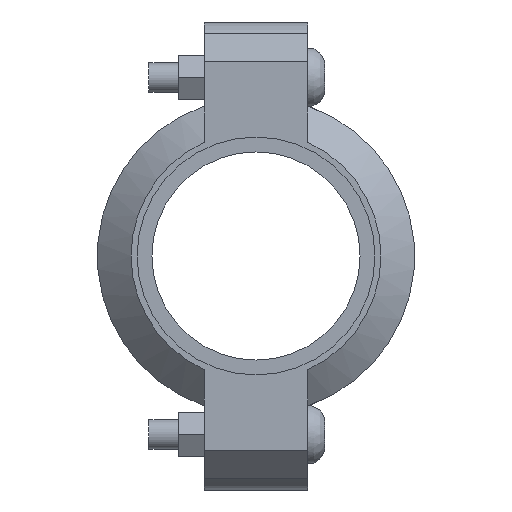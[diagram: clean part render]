
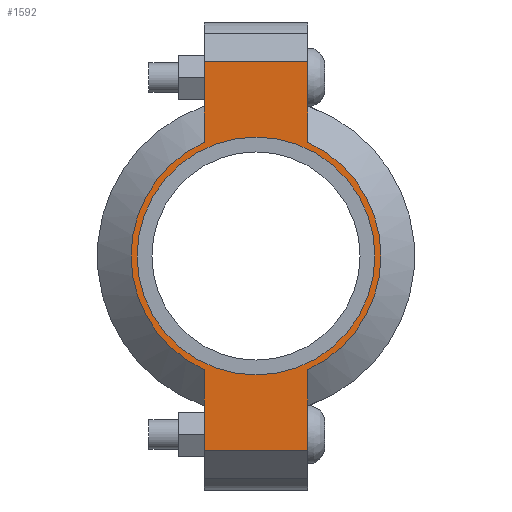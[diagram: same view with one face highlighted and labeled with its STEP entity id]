
A CAD part, left-side view. The second image highlights one B-rep face of the part: STEP entity #1592.
In plain terms, the highlighted planar face has unit normal (-1, 0, 0) as drawn and (0, 0, 1) by its records, which use the part's own axes.
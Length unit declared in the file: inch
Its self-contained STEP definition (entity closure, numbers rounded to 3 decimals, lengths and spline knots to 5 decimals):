
#198=LINE('',#2793,#293);
#211=LINE('',#2837,#306);
#216=LINE('',#2861,#311);
#223=LINE('',#2879,#318);
#230=LINE('',#2904,#325);
#231=LINE('',#2907,#326);
#293=VECTOR('',#2247,0.3937);
#306=VECTOR('',#2276,0.3937);
#311=VECTOR('',#2287,0.3937);
#318=VECTOR('',#2304,0.3937);
#325=VECTOR('',#2325,0.3937);
#326=VECTOR('',#2330,0.3937);
#378=FACE_BOUND('',#556,.T.);
#451=FACE_OUTER_BOUND('',#555,.T.);
#555=EDGE_LOOP('',(#1347,#1348,#1349,#1350,#1351,#1352,#1353,#1354));
#556=EDGE_LOOP('',(#1355));
#625=CIRCLE('',#1809,1.5);
#653=CIRCLE('',#1872,1.575);
#654=CIRCLE('',#1873,1.575);
#717=VERTEX_POINT('',#2581);
#760=VERTEX_POINT('',#2788);
#761=VERTEX_POINT('',#2792);
#777=VERTEX_POINT('',#2834);
#778=VERTEX_POINT('',#2836);
#784=VERTEX_POINT('',#2856);
#785=VERTEX_POINT('',#2860);
#790=VERTEX_POINT('',#2876);
#791=VERTEX_POINT('',#2878);
#875=EDGE_CURVE('',#717,#717,#625,.T.);
#937=EDGE_CURVE('',#761,#760,#198,.T.);
#957=EDGE_CURVE('',#778,#777,#211,.T.);
#966=EDGE_CURVE('',#785,#784,#216,.T.);
#975=EDGE_CURVE('',#791,#790,#223,.T.);
#987=EDGE_CURVE('',#785,#777,#230,.T.);
#988=EDGE_CURVE('',#784,#791,#653,.T.);
#989=EDGE_CURVE('',#761,#790,#231,.T.);
#990=EDGE_CURVE('',#760,#778,#654,.T.);
#1347=ORIENTED_EDGE('',*,*,#987,.F.);
#1348=ORIENTED_EDGE('',*,*,#966,.T.);
#1349=ORIENTED_EDGE('',*,*,#988,.T.);
#1350=ORIENTED_EDGE('',*,*,#975,.T.);
#1351=ORIENTED_EDGE('',*,*,#989,.F.);
#1352=ORIENTED_EDGE('',*,*,#937,.T.);
#1353=ORIENTED_EDGE('',*,*,#990,.T.);
#1354=ORIENTED_EDGE('',*,*,#957,.T.);
#1355=ORIENTED_EDGE('',*,*,#875,.T.);
#1433=PLANE('',#1871);
#1592=ADVANCED_FACE('',(#451,#378),#1433,.T.);
#1809=AXIS2_PLACEMENT_3D('',#2583,#2127,#2128);
#1871=AXIS2_PLACEMENT_3D('',#2905,#2326,#2327);
#1872=AXIS2_PLACEMENT_3D('',#2906,#2328,#2329);
#1873=AXIS2_PLACEMENT_3D('',#2908,#2331,#2332);
#2127=DIRECTION('center_axis',(0.,0.,-1.));
#2128=DIRECTION('ref_axis',(-1.,0.,0.));
#2247=DIRECTION('',(-1.,0.,0.));
#2276=DIRECTION('',(-1.,0.,0.));
#2287=DIRECTION('',(1.,0.,0.));
#2304=DIRECTION('',(1.,0.,0.));
#2325=DIRECTION('',(0.,1.,0.));
#2326=DIRECTION('center_axis',(0.,0.,1.));
#2327=DIRECTION('ref_axis',(1.,0.,0.));
#2328=DIRECTION('center_axis',(0.,0.,1.));
#2329=DIRECTION('ref_axis',(-1.,0.,0.));
#2330=DIRECTION('',(0.,-1.,0.));
#2331=DIRECTION('center_axis',(0.,0.,1.));
#2332=DIRECTION('ref_axis',(-1.,0.,0.));
#2581=CARTESIAN_POINT('',(1.5,0.,0.94));
#2583=CARTESIAN_POINT('Origin',(0.,0.,0.94));
#2788=CARTESIAN_POINT('',(1.43462,0.65,0.94));
#2792=CARTESIAN_POINT('',(2.45,0.65,0.94));
#2793=CARTESIAN_POINT('',(-2.95,0.65,0.94));
#2834=CARTESIAN_POINT('',(-2.45,0.65,0.94));
#2836=CARTESIAN_POINT('',(-1.43462,0.65,0.94));
#2837=CARTESIAN_POINT('',(-2.95,0.65,0.94));
#2856=CARTESIAN_POINT('',(-1.43462,-0.65,0.94));
#2860=CARTESIAN_POINT('',(-2.45,-0.65,0.94));
#2861=CARTESIAN_POINT('',(2.95,-0.65,0.94));
#2876=CARTESIAN_POINT('',(2.45,-0.65,0.94));
#2878=CARTESIAN_POINT('',(1.43462,-0.65,0.94));
#2879=CARTESIAN_POINT('',(2.95,-0.65,0.94));
#2904=CARTESIAN_POINT('',(-2.45,0.325,0.94));
#2905=CARTESIAN_POINT('Origin',(0.,0.,
0.94));
#2906=CARTESIAN_POINT('Origin',(0.,0.,0.94));
#2907=CARTESIAN_POINT('',(2.45,-0.325,0.94));
#2908=CARTESIAN_POINT('Origin',(0.,0.,0.94));
